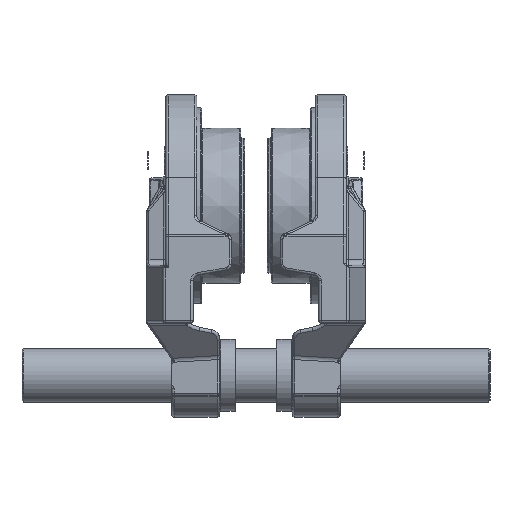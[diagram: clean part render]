
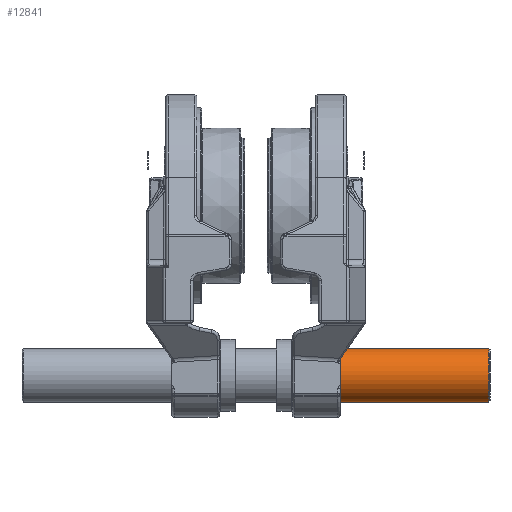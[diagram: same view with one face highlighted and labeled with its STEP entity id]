
A CAD part, front view. The second image highlights one B-rep face of the part: STEP entity #12841.
In plain terms, the highlighted cylindrical face has radius 22.5 mm (diameter 45 mm), a full revolution.
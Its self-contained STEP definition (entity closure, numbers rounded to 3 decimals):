
#1685=CYLINDRICAL_SURFACE('',#13773,22.5);
#2132=FACE_OUTER_BOUND('',#2960,.T.);
#2960=EDGE_LOOP('',(#8961,#8962,#8963,#8964,#8965,#8966));
#3800=LINE('',#19582,#4396);
#4396=VECTOR('',#15534,22.5);
#4994=CIRCLE('',#13758,22.5);
#4997=CIRCLE('',#13761,22.5);
#4998=CIRCLE('',#13762,22.5);
#5004=CIRCLE('',#13771,22.5);
#5872=VERTEX_POINT('',#19553);
#5873=VERTEX_POINT('',#19554);
#5876=VERTEX_POINT('',#19561);
#5882=VERTEX_POINT('',#19577);
#7001=EDGE_CURVE('',#5872,#5873,#4994,.T.);
#7005=EDGE_CURVE('',#5873,#5876,#4997,.T.);
#7006=EDGE_CURVE('',#5876,#5872,#4998,.T.);
#7012=EDGE_CURVE('',#5882,#5882,#5004,.T.);
#7014=EDGE_CURVE('',#5882,#5876,#3800,.T.);
#8961=ORIENTED_EDGE('',*,*,#7012,.T.);
#8962=ORIENTED_EDGE('',*,*,#7014,.T.);
#8963=ORIENTED_EDGE('',*,*,#7005,.F.);
#8964=ORIENTED_EDGE('',*,*,#7001,.F.);
#8965=ORIENTED_EDGE('',*,*,#7006,.F.);
#8966=ORIENTED_EDGE('',*,*,#7014,.F.);
#12841=ADVANCED_FACE('',(#2132),#1685,.T.);
#13758=AXIS2_PLACEMENT_3D('',#19555,#15500,#15501);
#13761=AXIS2_PLACEMENT_3D('',#19562,#15507,#15508);
#13762=AXIS2_PLACEMENT_3D('',#19563,#15509,#15510);
#13771=AXIS2_PLACEMENT_3D('',#19578,#15527,#15528);
#13773=AXIS2_PLACEMENT_3D('',#19581,#15532,#15533);
#15500=DIRECTION('center_axis',(-1.,0.,0.));
#15501=DIRECTION('ref_axis',(0.,-1.,0.));
#15507=DIRECTION('center_axis',(-1.,0.,0.));
#15508=DIRECTION('ref_axis',(0.,-1.,0.));
#15509=DIRECTION('center_axis',(-1.,0.,0.));
#15510=DIRECTION('ref_axis',(0.,-1.,0.));
#15527=DIRECTION('center_axis',(-1.,0.,0.));
#15528=DIRECTION('ref_axis',(0.,1.,0.));
#15532=DIRECTION('center_axis',(1.,0.,0.));
#15533=DIRECTION('ref_axis',(0.,1.,0.));
#15534=DIRECTION('',(-1.,0.,0.));
#19553=CARTESIAN_POINT('',(-195.,0.,22.5));
#19554=CARTESIAN_POINT('',(-195.,22.5,0.));
#19555=CARTESIAN_POINT('Origin',(-195.,0.,0.));
#19561=CARTESIAN_POINT('',(-195.,-22.5,0.));
#19562=CARTESIAN_POINT('Origin',(-195.,0.,0.));
#19563=CARTESIAN_POINT('Origin',(-195.,0.,0.));
#19577=CARTESIAN_POINT('',(-29.5,-22.5,0.));
#19578=CARTESIAN_POINT('Origin',(-29.5,0.,0.));
#19581=CARTESIAN_POINT('Origin',(0.,0.,0.));
#19582=CARTESIAN_POINT('',(0.,-22.5,0.));
